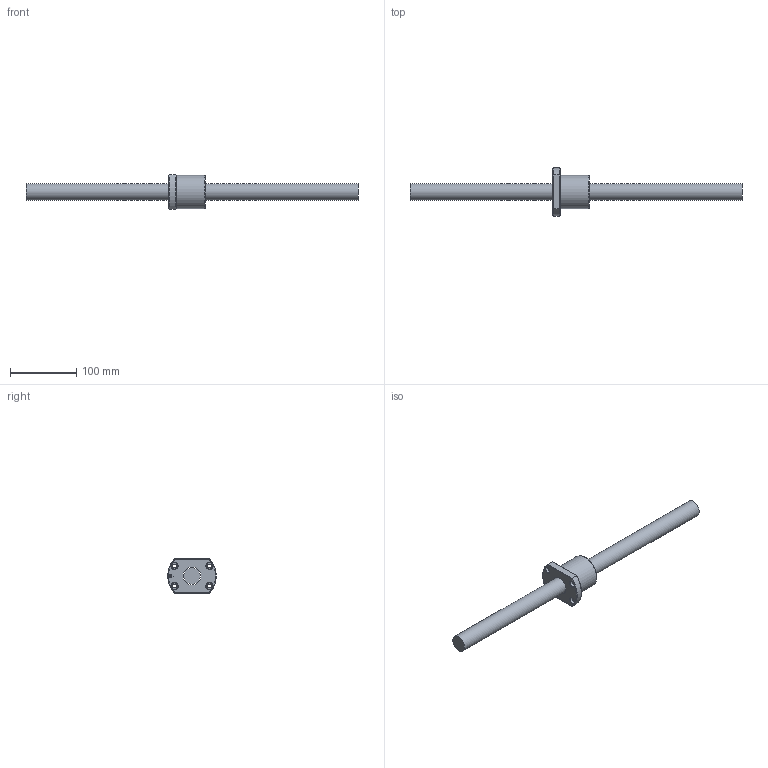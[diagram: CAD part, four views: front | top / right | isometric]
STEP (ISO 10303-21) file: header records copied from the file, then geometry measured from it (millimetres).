
FILE_DESCRIPTION (( 'STEP AP203' ), '1' );
FILE_NAME ('SFV02505D-4.8.step', '2024-05-20T03:38:04', ( '' ), ( '' ), 'SwSTEP 2.0', 'SolidWorks 2022', '' );
FILE_SCHEMA (( 'CONFIG_CONTROL_DESIGN' ));
Length unit declared in the file: millimetre
Products named in the file (1): SFV02505D-4.8
Bounding box: 500 x 73 x 52 mm (x, y, z)
Volume: 335002.6 mm3; surface area: 60879.1 mm2
Topology: 2 solids, 2 shells, 54 faces, 140 edges, 91 vertices
Faces by surface type: cylinder 20, plane 16, cone 9, torus 5, bspline 4
Full cylindrical faces by diameter (mm): 4 x1, 5.5 x4, 7 x5, 9.5 x4, 25 x1, 27.1 x1, 50 x1
Entity records: 3242 total; most frequent: CARTESIAN_POINT 2156, DIRECTION 198, ORIENTED_EDGE 182, EDGE_CURVE 91, AXIS2_PLACEMENT_3D 91, EDGE_LOOP 86, VERTEX_POINT 71, FACE_OUTER_BOUND 64
